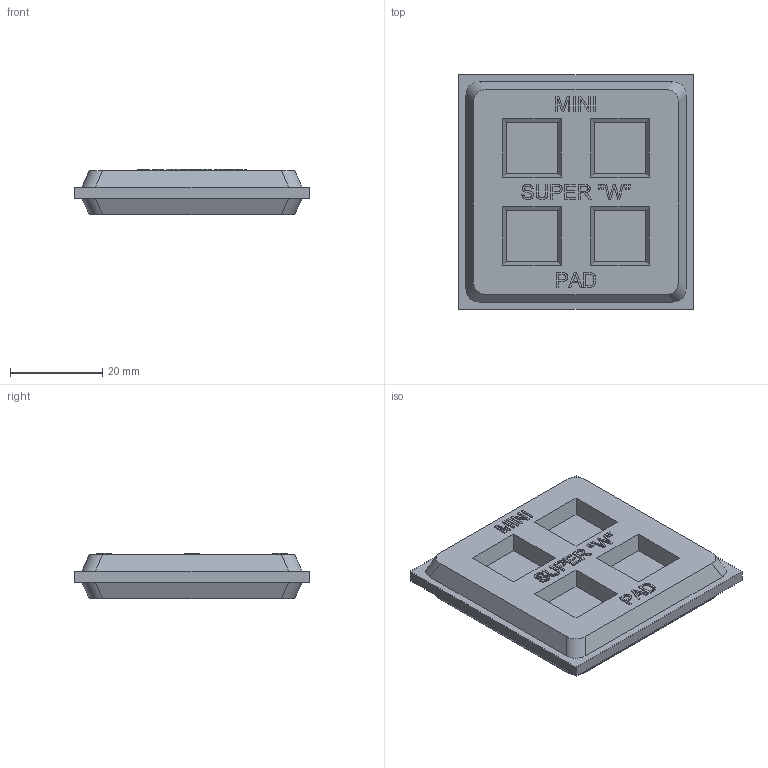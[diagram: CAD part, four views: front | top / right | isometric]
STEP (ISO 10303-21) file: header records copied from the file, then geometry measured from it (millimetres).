
FILE_DESCRIPTION(/* description */ (''),/* implementation_level */ '2;1');
FILE_NAME(/* name */ 'C:\001_Work\Designs\SUPER W PAD\MIN SUPER W 2 x 2 x 0375 PAD.stp',/* time_stamp */ '2015-09-09T10:10:14-04:00',/* author */ ('rramoutar'),/* organization */ ('Mason Industries Inc.'),/* preprocessor_version */ 'ST-DEVELOPER v15.6',/* originating_system */ 'Autodesk Inventor 2015',/* authorisation */ '');
FILE_SCHEMA (('AUTOMOTIVE_DESIGN { 1 0 10303 214 3 1 1 }'));
Length unit declared in the file: inch
Products named in the file (1): MIN SUPER W 2 x 2 x 0375 PAD
Bounding box: 50.8 x 50.8 x 9.78 mm (x, y, z)
Volume: 17197.4 mm3; surface area: 7619.8 mm2
Topology: 1 solids, 1 shells, 274 faces, 720 edges, 480 vertices
Faces by surface type: plane 210, bspline 56, cylinder 8
Entity records: 8804 total; most frequent: CARTESIAN_POINT 2365, ORIENTED_EDGE 1440, DIRECTION 1062, EDGE_CURVE 720, LINE 592, VECTOR 592, VERTEX_POINT 480, EDGE_LOOP 306
